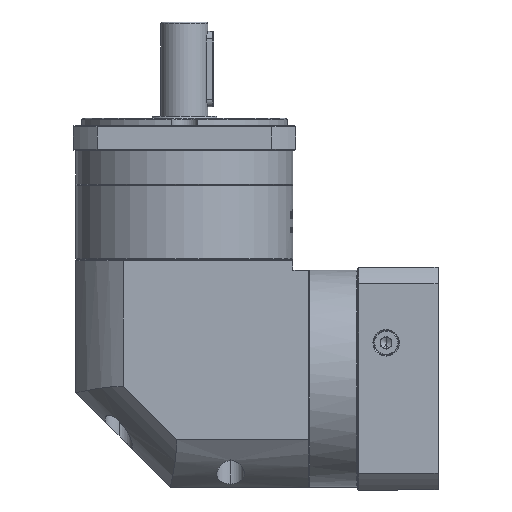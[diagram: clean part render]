
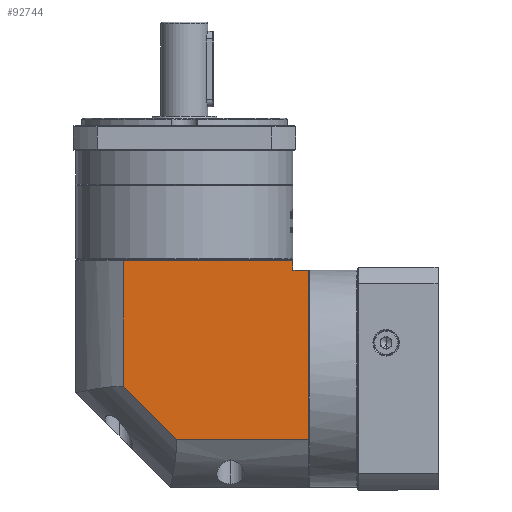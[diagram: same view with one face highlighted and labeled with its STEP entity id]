
A CAD part, left-side view. The second image highlights one B-rep face of the part: STEP entity #92744.
In plain terms, the highlighted planar face has unit normal (-1, 0, 0).
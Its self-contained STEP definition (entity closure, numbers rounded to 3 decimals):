
#1435 = VERTEX_POINT ( 'NONE', #87224 ) ;
#1589 = FACE_OUTER_BOUND ( 'NONE', #65267, .T. ) ;
#2458 = VERTEX_POINT ( 'NONE', #42236 ) ;
#2835 = EDGE_CURVE ( 'NONE', #15154, #1435, #130291, .T. ) ;
#4357 = DIRECTION ( 'NONE',  ( 1., 0., 0. ) ) ;
#8909 = LINE ( 'NONE', #112548, #164629 ) ;
#15154 = VERTEX_POINT ( 'NONE', #77639 ) ;
#21581 = CARTESIAN_POINT ( 'NONE',  ( -280.88, -137.387, -50.861 ) ) ;
#21756 = VECTOR ( 'NONE', #88062, 1000. ) ;
#29580 = VECTOR ( 'NONE', #151306, 1000. ) ;
#41022 = EDGE_CURVE ( 'NONE', #104950, #15154, #8909, .T. ) ;
#42236 = CARTESIAN_POINT ( 'NONE',  ( -280.88, -39.087, -22.523 ) ) ;
#42670 = CARTESIAN_POINT ( 'NONE',  ( -280.88, -13.987, -50.861 ) ) ;
#44292 = PLANE ( 'NONE',  #117964 ) ;
#49598 = CARTESIAN_POINT ( 'NONE',  ( -280.88, -128.987, -75.961 ) ) ;
#49812 = ORIENTED_EDGE ( 'NONE', *, *, #122836, .F. ) ;
#51115 = EDGE_CURVE ( 'NONE', #118934, #1435, #74112, .T. ) ;
#51236 = VERTEX_POINT ( 'NONE', #94656 ) ;
#57254 = LINE ( 'NONE', #42670, #153629 ) ;
#63459 = CARTESIAN_POINT ( 'NONE',  ( -280.88, -67.425, -50.861 ) ) ;
#65007 = VECTOR ( 'NONE', #156830, 1000. ) ;
#65267 = EDGE_LOOP ( 'NONE', ( #49812, #85334, #74153, #140429, #84957, #150533, #89459 ) ) ;
#69478 = VECTOR ( 'NONE', #85556, 1000. ) ;
#71470 = EDGE_CURVE ( 'NONE', #135548, #51236, #57254, .T. ) ;
#74112 = LINE ( 'NONE', #128422, #131486 ) ;
#74153 = ORIENTED_EDGE ( 'NONE', *, *, #71470, .F. ) ;
#76846 = DIRECTION ( 'NONE',  ( 0., -1., 0. ) ) ;
#77639 = CARTESIAN_POINT ( 'NONE',  ( -280.88, -128.987, 39.039 ) ) ;
#80323 = CARTESIAN_POINT ( 'NONE',  ( -280.88, -137.387, 39.039 ) ) ;
#84957 = ORIENTED_EDGE ( 'NONE', *, *, #41022, .T. ) ;
#85334 = ORIENTED_EDGE ( 'NONE', *, *, #106616, .F. ) ;
#85556 = DIRECTION ( 'NONE',  ( 0., 0., 1. ) ) ;
#87224 = CARTESIAN_POINT ( 'NONE',  ( -280.88, -128.987, 44.039 ) ) ;
#88062 = DIRECTION ( 'NONE',  ( 0., 0., 1. ) ) ;
#88504 = DIRECTION ( 'NONE',  ( 0., 1., 0. ) ) ;
#89459 = ORIENTED_EDGE ( 'NONE', *, *, #51115, .F. ) ;
#92744 = ADVANCED_FACE ( 'NONE', ( #1589 ), #44292, .F. ) ;
#94656 = CARTESIAN_POINT ( 'NONE',  ( -280.88, -67.425, -50.861 ) ) ;
#97301 = LINE ( 'NONE', #138136, #29580 ) ;
#98562 = EDGE_CURVE ( 'NONE', #104950, #135548, #97301, .T. ) ;
#104950 = VERTEX_POINT ( 'NONE', #80323 ) ;
#106616 = EDGE_CURVE ( 'NONE', #51236, #2458, #151226, .T. ) ;
#108525 = CARTESIAN_POINT ( 'NONE',  ( -280.88, -13.987, 50.539 ) ) ;
#108768 = CARTESIAN_POINT ( 'NONE',  ( -280.88, -39.087, 44.039 ) ) ;
#110201 = DIRECTION ( 'NONE',  ( 0., 1., 0. ) ) ;
#112548 = CARTESIAN_POINT ( 'NONE',  ( -280.88, -128.987, 39.039 ) ) ;
#117964 = AXIS2_PLACEMENT_3D ( 'NONE', #108525, #4357, #110201 ) ;
#118934 = VERTEX_POINT ( 'NONE', #108768 ) ;
#122836 = EDGE_CURVE ( 'NONE', #2458, #118934, #139199, .T. ) ;
#128422 = CARTESIAN_POINT ( 'NONE',  ( -280.88, -13.987, 44.039 ) ) ;
#130291 = LINE ( 'NONE', #49598, #21756 ) ;
#131486 = VECTOR ( 'NONE', #76846, 1000. ) ;
#132698 = DIRECTION ( 'NONE',  ( 0., 1., 0. ) ) ;
#135548 = VERTEX_POINT ( 'NONE', #21581 ) ;
#138136 = CARTESIAN_POINT ( 'NONE',  ( -280.88, -137.387, 50.539 ) ) ;
#139199 = LINE ( 'NONE', #162377, #69478 ) ;
#140429 = ORIENTED_EDGE ( 'NONE', *, *, #98562, .F. ) ;
#150533 = ORIENTED_EDGE ( 'NONE', *, *, #2835, .T. ) ;
#151226 = LINE ( 'NONE', #63459, #65007 ) ;
#151306 = DIRECTION ( 'NONE',  ( 0., 0., -1. ) ) ;
#153629 = VECTOR ( 'NONE', #132698, 1000. ) ;
#156830 = DIRECTION ( 'NONE',  ( 0., 0.707, 0.707 ) ) ;
#162377 = CARTESIAN_POINT ( 'NONE',  ( -280.88, -39.087, 50.539 ) ) ;
#164629 = VECTOR ( 'NONE', #88504, 1000. ) ;
